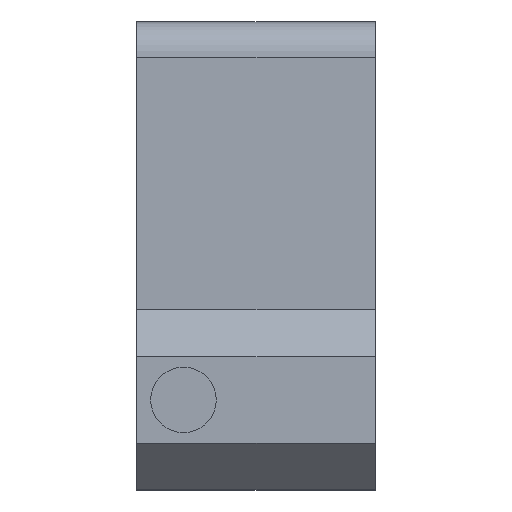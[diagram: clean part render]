
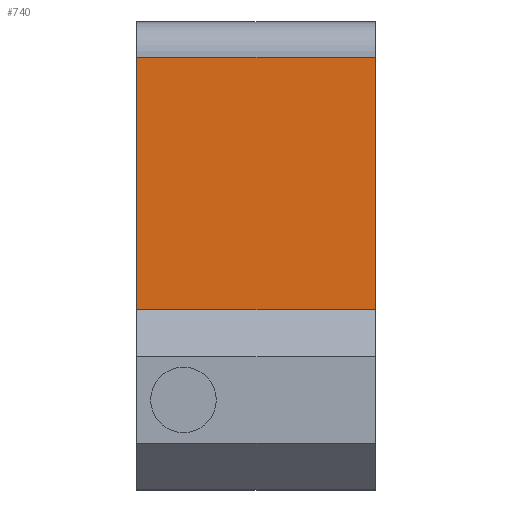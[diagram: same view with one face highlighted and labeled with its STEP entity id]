
A CAD part, left-side view. The second image highlights one B-rep face of the part: STEP entity #740.
In plain terms, the highlighted planar face has unit normal (-1, 0, 0).
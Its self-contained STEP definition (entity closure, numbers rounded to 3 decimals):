
#7 = VERTEX_POINT ( 'NONE', #1352 ) ;
#17 = CARTESIAN_POINT ( 'NONE',  ( 0., -15.911, -4.6 ) ) ;
#24 = VECTOR ( 'NONE', #722, 1000. ) ;
#58 = VECTOR ( 'NONE', #743, 1000. ) ;
#61 = DIRECTION ( 'NONE',  ( 0., 0., 1. ) ) ;
#170 = DIRECTION ( 'NONE',  ( 0., 1., 0. ) ) ;
#228 = EDGE_CURVE ( 'NONE', #7, #1149, #915, .T. ) ;
#285 = LINE ( 'NONE', #1243, #24 ) ;
#305 = LINE ( 'NONE', #371, #571 ) ;
#333 = FACE_OUTER_BOUND ( 'NONE', #999, .T. ) ;
#371 = CARTESIAN_POINT ( 'NONE',  ( 0., 20.4, -20. ) ) ;
#374 = CARTESIAN_POINT ( 'NONE',  ( 0., 20.4, 17. ) ) ;
#437 = AXIS2_PLACEMENT_3D ( 'NONE', #917, #870, #868 ) ;
#539 = ORIENTED_EDGE ( 'NONE', *, *, #573, .T. ) ;
#571 = VECTOR ( 'NONE', #61, 1000. ) ;
#573 = EDGE_CURVE ( 'NONE', #7, #604, #285, .T. ) ;
#604 = VERTEX_POINT ( 'NONE', #807 ) ;
#722 = DIRECTION ( 'NONE',  ( 0., 0., 1. ) ) ;
#740 = ADVANCED_FACE ( 'NONE', ( #333 ), #950, .F. ) ;
#743 = DIRECTION ( 'NONE',  ( 0., 1., 0. ) ) ;
#792 = LINE ( 'NONE', #374, #1080 ) ;
#807 = CARTESIAN_POINT ( 'NONE',  ( 0., 0., 17. ) ) ;
#868 = DIRECTION ( 'NONE',  ( 0., 0., -1. ) ) ;
#870 = DIRECTION ( 'NONE',  ( 1., 0., 0. ) ) ;
#876 = EDGE_CURVE ( 'NONE', #604, #1261, #792, .T. ) ;
#910 = CARTESIAN_POINT ( 'NONE',  ( 0., 20.4, -4.6 ) ) ;
#915 = LINE ( 'NONE', #17, #58 ) ;
#917 = CARTESIAN_POINT ( 'NONE',  ( 0., 20.4, -20. ) ) ;
#950 = PLANE ( 'NONE',  #437 ) ;
#995 = ORIENTED_EDGE ( 'NONE', *, *, #1299, .F. ) ;
#999 = EDGE_LOOP ( 'NONE', ( #539, #1152, #995, #1085 ) ) ;
#1080 = VECTOR ( 'NONE', #170, 1000. ) ;
#1085 = ORIENTED_EDGE ( 'NONE', *, *, #228, .F. ) ;
#1149 = VERTEX_POINT ( 'NONE', #910 ) ;
#1152 = ORIENTED_EDGE ( 'NONE', *, *, #876, .T. ) ;
#1243 = CARTESIAN_POINT ( 'NONE',  ( 0., 0., -20. ) ) ;
#1261 = VERTEX_POINT ( 'NONE', #1346 ) ;
#1299 = EDGE_CURVE ( 'NONE', #1149, #1261, #305, .T. ) ;
#1346 = CARTESIAN_POINT ( 'NONE',  ( 0., 20.4, 17. ) ) ;
#1352 = CARTESIAN_POINT ( 'NONE',  ( 0., 0., -4.6 ) ) ;
